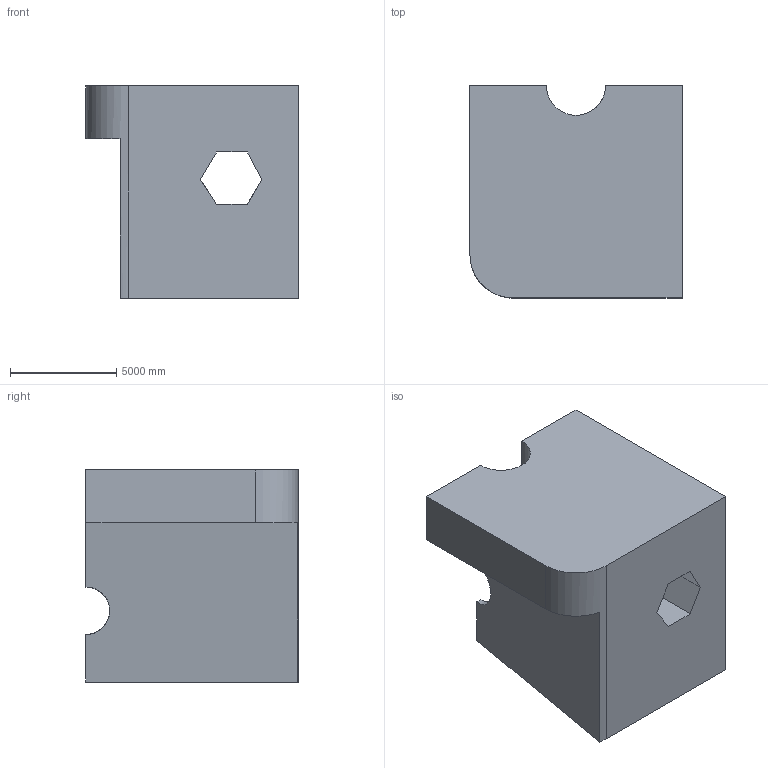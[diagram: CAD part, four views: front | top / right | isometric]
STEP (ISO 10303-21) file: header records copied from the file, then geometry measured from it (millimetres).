
FILE_DESCRIPTION (( 'STEP AP203' ), '1' );
FILE_NAME ('1580.STEP', '2022-08-25T15:11:35', ( 'user' ), ( '' ), 'SwSTEP 2.0', 'SolidWorks 2021', '' );
FILE_SCHEMA (( 'CONFIG_CONTROL_DESIGN' ));
Length unit declared in the file: centimetre
Products named in the file (1): 1580
Bounding box: 10000 x 10000 x 10000 mm (x, y, z)
Volume: 707473195997.9 mm3; surface area: 677668707.4 mm2
Topology: 1 solids, 1 shells, 25 faces, 72 edges, 48 vertices
Faces by surface type: plane 21, cylinder 4
Entity records: 1203 total; most frequent: CARTESIAN_POINT 475, ORIENTED_EDGE 144, DIRECTION 125, EDGE_CURVE 72, VECTOR 55, LINE 55, VERTEX_POINT 48, AXIS2_PLACEMENT_3D 35
